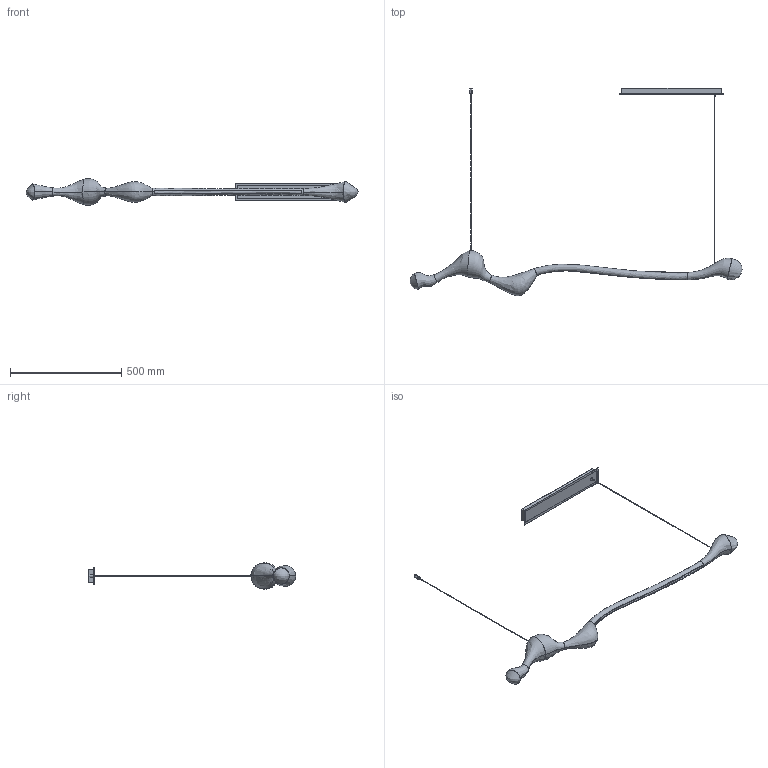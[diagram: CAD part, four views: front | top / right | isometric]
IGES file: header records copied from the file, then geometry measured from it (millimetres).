
Start section: SolidWorks IGES file using analytic representation for surfaces
Global section: file name: F:\燠隴矨\3D\2025-12\Curva Pendant Lamp.IGS,15; native system: HSolidWorks 2022; preprocessor: SolidWorks 2022; author: MyPC; date: 251218.164512; units: millimetre
Bounding box: 1494.04 x 932.43 x 119.19 mm (x, y, z)
Surface area: 444951.7 mm2 (no closed solid volume)
Topology: 0 solids, 0 shells, 68 faces, 933 edges, 933 vertices
Faces by surface type: bspline 48, revolution 20
